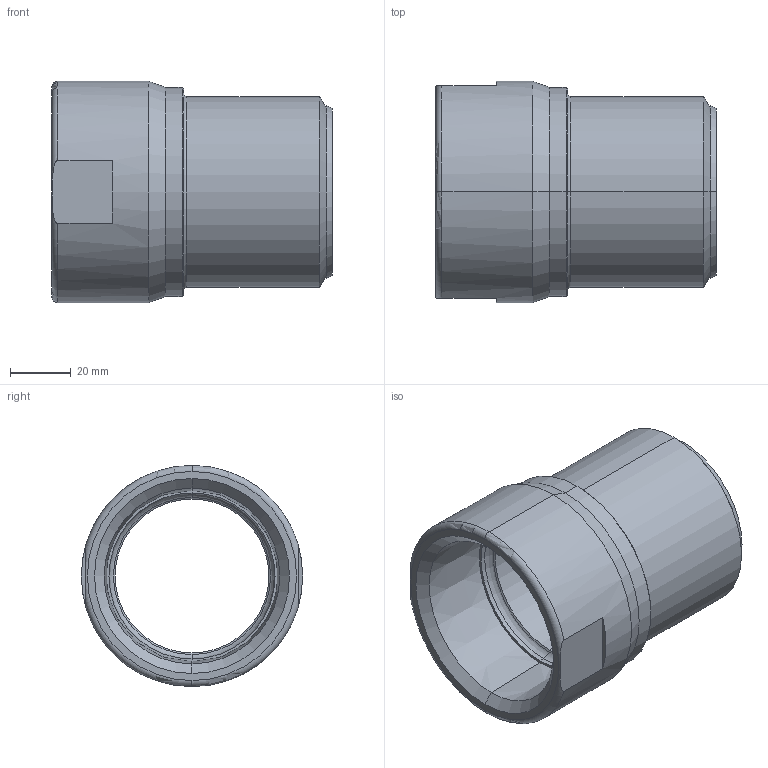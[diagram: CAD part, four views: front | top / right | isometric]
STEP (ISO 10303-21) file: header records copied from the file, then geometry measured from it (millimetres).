
FILE_DESCRIPTION (( 'STEP AP203' ), '1' );
FILE_NAME ('KP_C15-63FS.step', '2011-08-08T12:04:15', ( '' ), ( '' ), 'SwSTEP 2.0', 'SolidWorks 2011', '' );
FILE_SCHEMA (( 'CONFIG_CONTROL_DESIGN' ));
Length unit declared in the file: millimetre
Products named in the file (1): KP_C15-63FS
Bounding box: 92.5 x 73 x 73 mm (x, y, z)
Volume: 121383.3 mm3; surface area: 40773.2 mm2
Topology: 1 solids, 2 shells, 49 faces, 102 edges, 60 vertices
Faces by surface type: cone 18, cylinder 12, plane 11, torus 8
Entity records: 1469 total; most frequent: CARTESIAN_POINT 294, DIRECTION 264, ORIENTED_EDGE 204, AXIS2_PLACEMENT_3D 114, EDGE_CURVE 102, CIRCLE 64, VERTEX_POINT 60, EDGE_LOOP 56
